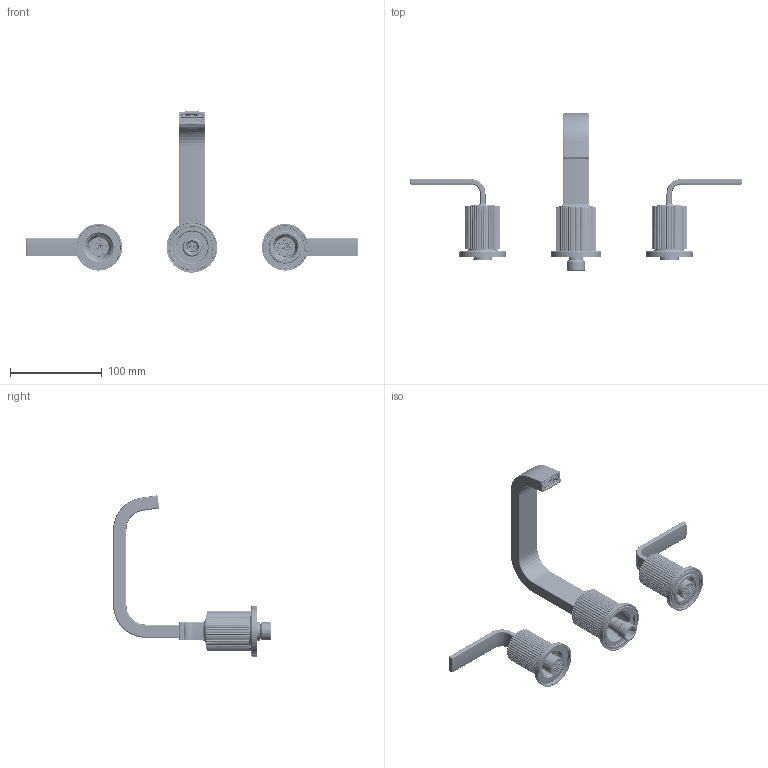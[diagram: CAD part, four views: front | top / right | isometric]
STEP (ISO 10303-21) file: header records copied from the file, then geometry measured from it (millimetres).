
FILE_DESCRIPTION (( 'STEP AP203' ), '1' );
FILE_NAME ('sku_tvs5758series_stp.STEP', '2026-01-23T07:26:33', ( '' ), ( '' ), 'SwSTEP 2.0', 'SolidWorks 2025', '' );
FILE_SCHEMA (( 'CONFIG_CONTROL_DESIGN' ));
Length unit declared in the file: inch
Products named in the file (20): 216045SERIES_Part1_Part62; 122184_122184_BREP_Part65; 216043SERIES_216043SERIES_Part6; 139864_139864_Part2; 216051SERIES_Part4_Part69; 113604_113604_Part66; 1011355XX_Assem1; DUP_207894_DUP_207894_Assem11; 180354_180354_Part3; 99933_99933_BREP_Part13; 216050SERIES_Part1_Part68; sku_tvs5758series_stp; DUP_200847_Part8_Part56; 1001399XX_6695_ws_spout_9mm_Part1; 1011343SERIES_Assem2; 219401_02.3243.0 NEOPERL 24.5 X 9_Part4; 216044SERIES_216044SERIES_Part5; 114695_114695_BREP_Part63; 114694_114694_BREP_Part64; 122759_122759_Part7
Assembly tree (27 placements, depth 3):
  sku_tvs5758series_stp
    1011355XX_Assem1
      1001399XX_6695_ws_spout_9mm_Part1
      139864_139864_Part2
      180354_180354_Part3
      219401_02.3243.0 NEOPERL 24.5 X 9_Part4
    1011343SERIES_Assem2  x2
      216044SERIES_216044SERIES_Part5
      216043SERIES_216043SERIES_Part6
      122759_122759_Part7
    DUP_207894_DUP_207894_Assem11
      DUP_200847_Part8_Part56
    99933_99933_BREP_Part13
    216045SERIES_Part1_Part62  x2
    114695_114695_BREP_Part63  x4
    114694_114694_BREP_Part64  x2
    122184_122184_BREP_Part65  x2
    113604_113604_Part66  x2
    216050SERIES_Part1_Part68
    216051SERIES_Part4_Part69
Bounding box: 361.95 x 171.82 x 175.81 mm (x, y, z)
Volume: 202214.7 mm3; surface area: 150218.4 mm2
Topology: 31 solids, 31 shells, 6923 faces, 18302 edges, 11345 vertices
Faces by surface type: cylinder 2389, plane 1829, bspline 1247, torus 888, cone 434, sphere 136
Entity records: 224692 total; most frequent: CARTESIAN_POINT 99534, ORIENTED_EDGE 27910, DIRECTION 22773, EDGE_CURVE 13955, AXIS2_PLACEMENT_3D 8726, VERTEX_POINT 8688, EDGE_LOOP 5893, FACE_OUTER_BOUND 5378
